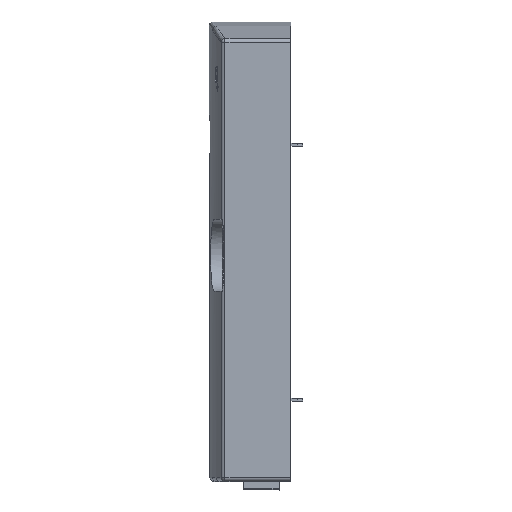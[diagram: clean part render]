
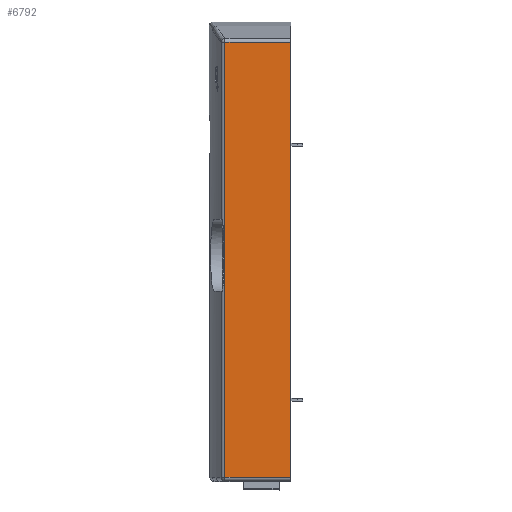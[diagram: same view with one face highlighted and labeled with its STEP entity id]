
A CAD part, top view. The second image highlights one B-rep face of the part: STEP entity #6792.
In plain terms, the highlighted planar face has unit normal (0, 0, 1).
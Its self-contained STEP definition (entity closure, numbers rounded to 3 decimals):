
#776 = AXIS2_PLACEMENT_3D ( 'NONE', #13271, #13278, #13279 ) ;
#1392 = ORIENTED_EDGE ( 'NONE', *, *, #9639, .F. ) ;
#1393 = ORIENTED_EDGE ( 'NONE', *, *, #9640, .F. ) ;
#1394 = ORIENTED_EDGE ( 'NONE', *, *, #9641, .F. ) ;
#1395 = ORIENTED_EDGE ( 'NONE', *, *, #9642, .F. ) ;
#6792 = ADVANCED_FACE ( 'NONE', ( #13274 ), #13275, .F. ) ;
#8595 = VERTEX_POINT ( 'NONE', #12253 ) ;
#8597 = VERTEX_POINT ( 'NONE', #12246 ) ;
#8602 = VERTEX_POINT ( 'NONE', #12258 ) ;
#8606 = VERTEX_POINT ( 'NONE', #12262 ) ;
#9639 = EDGE_CURVE ( 'NONE', #8597, #8606, #15874, .T. ) ;
#9640 = EDGE_CURVE ( 'NONE', #8602, #8597, #15882, .T. ) ;
#9641 = EDGE_CURVE ( 'NONE', #8595, #8602, #15885, .T. ) ;
#9642 = EDGE_CURVE ( 'NONE', #8606, #8595, #15888, .T. ) ;
#12246 = CARTESIAN_POINT ( 'NONE',  ( -33.096, -7.2, 21.6 ) ) ;
#12253 = CARTESIAN_POINT ( 'NONE',  ( 0.001, 211.265, 21.6 ) ) ;
#12258 = CARTESIAN_POINT ( 'NONE',  ( 0., -7.2, 21.6 ) ) ;
#12262 = CARTESIAN_POINT ( 'NONE',  ( -33.094, 211.265, 21.6 ) ) ;
#13020 = VECTOR ( 'NONE', #15881, 1000. ) ;
#13022 = VECTOR ( 'NONE', #15884, 1000. ) ;
#13023 = VECTOR ( 'NONE', #15887, 1000. ) ;
#13024 = VECTOR ( 'NONE', #15890, 1000. ) ;
#13271 = CARTESIAN_POINT ( 'NONE',  ( -34.731, 221.8, 21.6 ) ) ;
#13274 = FACE_OUTER_BOUND ( 'NONE', #16357, .T. ) ;
#13275 = PLANE ( 'NONE',  #776 ) ;
#13278 = DIRECTION ( 'NONE',  ( 0., 0., -1. ) ) ;
#13279 = DIRECTION ( 'NONE',  ( 1., 0., 0. ) ) ;
#15873 = CARTESIAN_POINT ( 'NONE',  ( -33.094, 221.8, 21.6 ) ) ;
#15874 = LINE ( 'NONE', #15873, #13020 ) ;
#15881 = DIRECTION ( 'NONE',  ( 0., 1., 0. ) ) ;
#15882 = LINE ( 'NONE', #15883, #13022 ) ;
#15883 = CARTESIAN_POINT ( 'NONE',  ( -34.733, -7.2, 21.6 ) ) ;
#15884 = DIRECTION ( 'NONE',  ( -1., 0., 0. ) ) ;
#15885 = LINE ( 'NONE', #15886, #13023 ) ;
#15886 = CARTESIAN_POINT ( 'NONE',  ( 0.001, 221.8, 21.6 ) ) ;
#15887 = DIRECTION ( 'NONE',  ( 0., -1., 0. ) ) ;
#15888 = LINE ( 'NONE', #15889, #13024 ) ;
#15889 = CARTESIAN_POINT ( 'NONE',  ( 0.001, 211.265, 21.6 ) ) ;
#15890 = DIRECTION ( 'NONE',  ( 1., 0., 0. ) ) ;
#16357 = EDGE_LOOP ( 'NONE', ( #1392, #1393, #1394, #1395 ) ) ;
